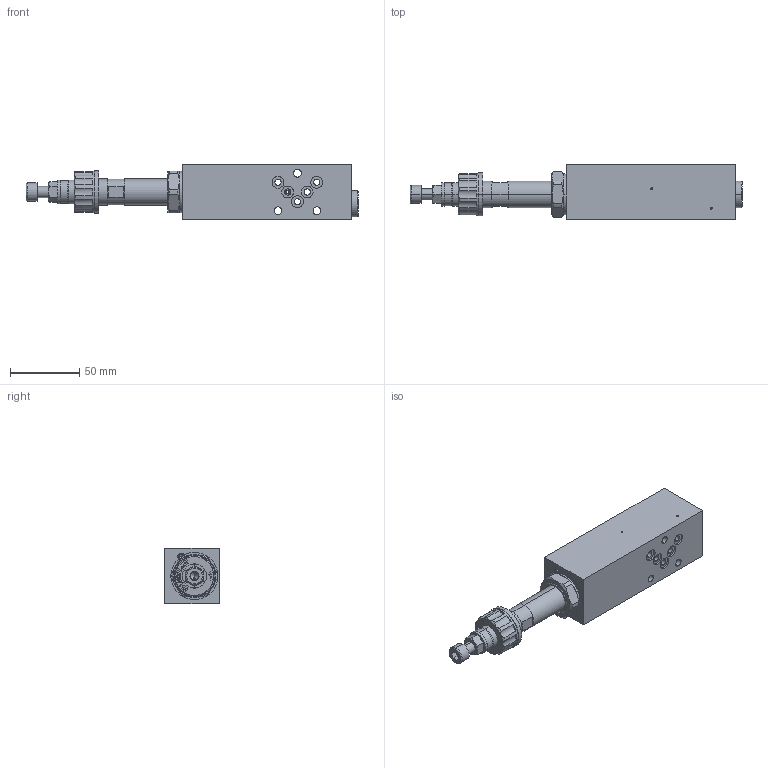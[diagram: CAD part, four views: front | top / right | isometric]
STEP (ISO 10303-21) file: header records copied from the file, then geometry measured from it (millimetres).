
FILE_DESCRIPTION (( 'STEP AP214' ), '1' );
FILE_NAME ('M.ISA04-A.STEP', '2017-03-31T06:07:55', ( '' ), ( '' ), 'SwSTEP 2.0', 'SolidWorks 2016', '' );
FILE_SCHEMA (( 'AUTOMOTIVE_DESIGN' ));
Length unit declared in the file: millimetre
Products named in the file (1): M.ISA04-A
Bounding box: 239.5 x 39.5 x 40 mm (x, y, z)
Volume: 224981.5 mm3; surface area: 40362.6 mm2
Topology: 5 solids, 11 shells, 547 faces, 1350 edges, 851 vertices
Faces by surface type: plane 256, cylinder 139, cone 88, bspline 38, torus 18, sphere 8
Entity records: 23573 total; most frequent: CARTESIAN_POINT 4741, DIRECTION 2665, ORIENTED_EDGE 2652, EDGE_CURVE 1326, AXIS2_PLACEMENT_3D 989, VERTEX_POINT 851, VECTOR 687, LINE 687
